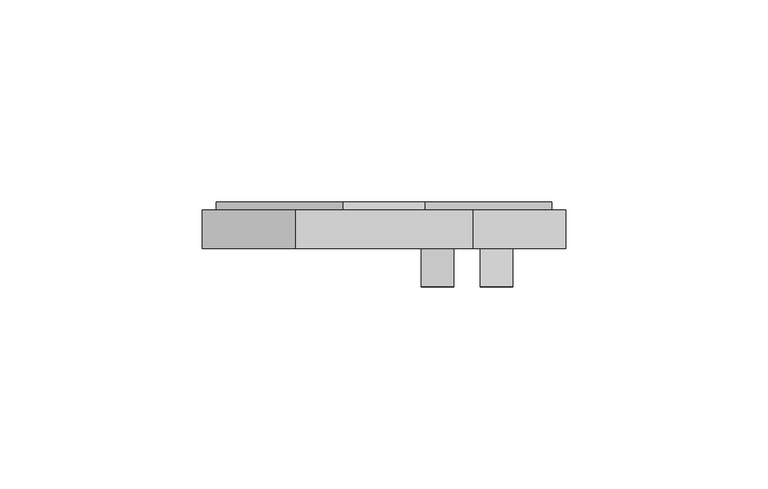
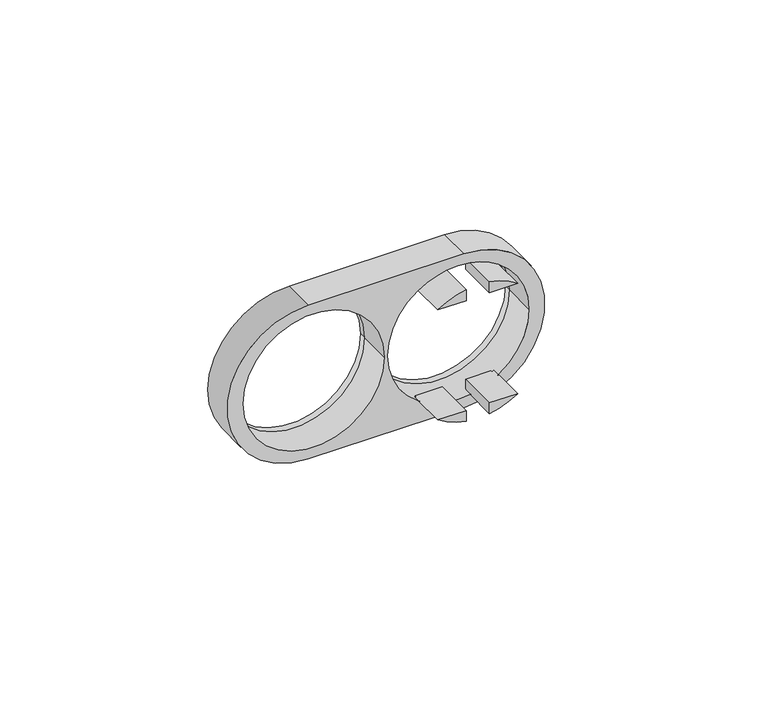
"""IFC4 building model written with IfcOpenShell, lengths in millimetres: proxy geometry, IEK_Brite_Розетка_2гн : 230 В PE_РС12-3-БрА."""

from ifc_helpers import new_model, si_unit, frame, origin, place, context, project, spatial, polyline, circle_curve, source, transform, mapped, element, save
from ifc_brep_helpers import plane_surface, cylinder_surface, revolved_surface, advanced_brep


def electrical_fixtures_a1f27638(model_context):
    return source(origin(), model_context, "Body", "AdvancedBrep", [
        advanced_brep(
        [(22.0, 19.5, -23.0), (-22.0, 19.5, -23.0), (-22.0, 19.5, 23.0), (22.0, 19.5, 23.0), (41.5, 19.5, 0.0), (10.2222863, 19.5, 18.3130719), (-10.2222863, 19.5, 18.3130719), (-41.5, 19.5, 0.0), (-10.2222863, 19.5, -18.3130719), (10.2222863, 19.5, -18.3130719), (22.0, 10.0, -23.0), (22.0, 10.0, 23.0), (-22.0, 10.0, 23.0), (-22.0, 10.0, -23.0), (-0.5, 10.0, 0.0), (-40.5, 10.0, 0.0), (40.5, 10.0, 0.0), (31.8194768, 10.0, -16.488464), (23.7980592, 10.0, -19.7261959), (17.2019408, 10.0, -19.7261959), (9.1805232, 10.0, -16.488464), (0.5, 10.0, 0.0), (9.1805232, 10.0, 16.488464), (17.2019408, 10.0, 19.7261959), (23.7980592, 10.0, 19.7261959), (31.8194768, 10.0, 16.488464), (40.5, 19.5, 0.0), (31.8194768, 12.2142117, 16.488464), (23.7980592, 12.2142117, 19.7261959), (17.2019408, 12.2142117, 19.7261959), (9.1805232, 12.2142117, 16.488464), (0.5, 19.5, 0.0), (9.1805232, 12.2142117, -16.488464), (17.2019408, 12.2142117, -19.7261959), (23.7980592, 12.2142117, -19.7261959), (31.8194768, 12.2142117, -16.488464), (-40.5, 19.5, 0.0), (-0.5, 19.5, 0.0), (10.2222863, 21.5, 18.3130719), (41.5, 21.5, 0.0), (10.2222863, 21.5, -18.3130719), (-10.2222863, 21.5, -18.3130719), (-41.5, 21.5, 0.0), (-10.2222863, 21.5, 18.3130719), (40.5, 21.5, 0.0), (0.5, 21.5, 0.0), (-40.5, 21.5, 0.0), (-0.5, 21.5, 0.0), (23.7980592, 12.2142117, -16.488464), (17.2019408, 12.2142117, -16.488464), (23.7980592, 12.2142117, 16.488464), (17.2019408, 12.2142117, 16.488464), (23.7980592, 0.5, -16.488464), (23.7980592, 0.5, -19.7261959), (31.8194768, 0.5, -16.488464), (17.2019408, 0.5, -16.488464), (9.1805232, 0.5, -16.488464), (17.2019408, 0.5, -19.7261959), (23.7980592, 0.5, 16.488464), (31.8194768, 0.5, 16.488464), (23.7980592, 0.5, 19.7261959), (17.2019408, 0.5, 16.488464), (17.2019408, 0.5, 19.7261959), (9.1805232, 0.5, 16.488464)],
        [
            (0, 1),
            (1, 2, circle_curve(frame((-22.0, 19.5, 0.0), z_axis=(0.0, 1.0, 0.0), x_axis=(-1.0, 0.0, 0.0)), 23.0)),
            (2, 3),
            (3, 0, circle_curve(frame((22.0, 19.5, 0.0), z_axis=(0.0, 1.0, 0.0), x_axis=(-1.0, 0.0, 0.0)), 23.0)),
            (4, 5, circle_curve(frame((20.5, 19.5, 0.0), z_axis=(0.0, -1.0, 0.0), x_axis=(-1.0, 0.0, 0.0)), 21.0)),
            (5, 6, circle_curve(frame((0.0, 19.5, 36.5273819), z_axis=(0.0, 1.0, 0.0), x_axis=(-1.0, 0.0, 0.0)), 20.8867476)),
            (6, 7, circle_curve(frame((-20.5, 19.5, 0.0), z_axis=(0.0, -1.0, 0.0), x_axis=(-1.0, 0.0, 0.0)), 21.0)),
            (7, 8, circle_curve(frame((-20.5, 19.5, 0.0), z_axis=(0.0, -1.0, 0.0), x_axis=(-1.0, 0.0, 0.0)), 21.0)),
            (8, 9, circle_curve(frame((0.0, 19.5, -36.5273819), z_axis=(0.0, 1.0, 0.0), x_axis=(-1.0, 0.0, 0.0)), 20.8867476)),
            (9, 4, circle_curve(frame((20.5, 19.5, 0.0), z_axis=(0.0, -1.0, 0.0), x_axis=(-1.0, 0.0, 0.0)), 21.0)),
            (10, 11, circle_curve(frame((22.0, 10.0, 0.0), z_axis=(0.0, -1.0, 0.0), x_axis=(-1.0, 0.0, 0.0)), 23.0)),
            (11, 12),
            (12, 13, circle_curve(frame((-22.0, 10.0, 0.0), z_axis=(0.0, -1.0, 0.0), x_axis=(-1.0, 0.0, 0.0)), 23.0)),
            (13, 10),
            (14, 15, circle_curve(frame((-20.5, 10.0, 0.0), z_axis=(0.0, 1.0, 0.0), x_axis=(-1.0, 0.0, 0.0)), 20.0)),
            (15, 14, circle_curve(frame((-20.5, 10.0, 0.0), z_axis=(0.0, 1.0, 0.0), x_axis=(-1.0, 0.0, 0.0)), 20.0)),
            (16, 17, circle_curve(frame((20.5, 10.0, 0.0), z_axis=(0.0, 1.0, 0.0), x_axis=(-1.0, 0.0, 0.0)), 20.0)),
            (17, 18, circle_curve(frame((20.5, 10.0, 0.0), z_axis=(0.0, 1.0, 0.0), x_axis=(0.0, 0.0, -1.0)), 20.0)),
            (18, 19, circle_curve(frame((20.5, 10.0, 0.0), z_axis=(0.0, 1.0, 0.0), x_axis=(-1.0, 0.0, 0.0)), 20.0)),
            (19, 20, circle_curve(frame((20.5, 10.0, 0.0), z_axis=(0.0, 1.0, 0.0), x_axis=(0.0, 0.0, -1.0)), 20.0)),
            (20, 21, circle_curve(frame((20.5, 10.0, 0.0), z_axis=(0.0, 1.0, 0.0), x_axis=(-1.0, 0.0, 0.0)), 20.0)),
            (21, 22, circle_curve(frame((20.5, 10.0, 0.0), z_axis=(0.0, 1.0, 0.0), x_axis=(-1.0, 0.0, 0.0)), 20.0)),
            (22, 23, circle_curve(frame((20.5, 10.0, 0.0), z_axis=(0.0, 1.0, 0.0), x_axis=(0.0, 0.0, -1.0)), 20.0)),
            (23, 24, circle_curve(frame((20.5, 10.0, 0.0), z_axis=(0.0, 1.0, 0.0), x_axis=(-1.0, 0.0, 0.0)), 20.0)),
            (24, 25, circle_curve(frame((20.5, 10.0, 0.0), z_axis=(0.0, 1.0, 0.0), x_axis=(0.0, 0.0, -1.0)), 20.0)),
            (25, 16, circle_curve(frame((20.5, 10.0, 0.0), z_axis=(0.0, 1.0, 0.0), x_axis=(-1.0, 0.0, 0.0)), 20.0)),
            (0, 10),
            (13, 1),
            (12, 2),
            (11, 3),
            (26, 16),
            (25, 27),
            (27, 28, circle_curve(frame((20.5, 12.2142117, 0.0), z_axis=(0.0, -1.0, 0.0), x_axis=(-1.0, 0.0, 0.0)), 20.0)),
            (28, 24),
            (23, 29),
            (29, 30, circle_curve(frame((20.5, 12.2142117, 0.0), z_axis=(0.0, -1.0, 0.0), x_axis=(-1.0, 0.0, 0.0)), 20.0)),
            (30, 22),
            (21, 31),
            (31, 26, circle_curve(frame((20.5, 19.5, 0.0), z_axis=(0.0, 1.0, 0.0), x_axis=(-1.0, 0.0, 0.0)), 20.0)),
            (26, 31, circle_curve(frame((20.5, 19.5, 0.0), z_axis=(0.0, 1.0, 0.0), x_axis=(-1.0, 0.0, 0.0)), 20.0)),
            (20, 32),
            (32, 33, circle_curve(frame((20.5, 12.2142117, 0.0), z_axis=(0.0, -1.0, 0.0), x_axis=(-1.0, 0.0, 0.0)), 20.0)),
            (33, 19),
            (18, 34),
            (34, 35, circle_curve(frame((20.5, 12.2142117, 0.0), z_axis=(0.0, -1.0, 0.0), x_axis=(-1.0, 0.0, 0.0)), 20.0)),
            (35, 17),
            (15, 36),
            (36, 37, circle_curve(frame((-20.5, 19.5, 0.0), z_axis=(0.0, 1.0, 0.0), x_axis=(-1.0, 0.0, 0.0)), 20.0)),
            (37, 14),
            (37, 36, circle_curve(frame((-20.5, 19.5, 0.0), z_axis=(0.0, 1.0, 0.0), x_axis=(-1.0, 0.0, 0.0)), 20.0)),
            (38, 39, circle_curve(frame((20.5, 21.5, 0.0), z_axis=(0.0, 1.0, 0.0), x_axis=(-1.0, 0.0, 0.0)), 21.0)),
            (39, 40, circle_curve(frame((20.5, 21.5, 0.0), z_axis=(0.0, 1.0, 0.0), x_axis=(-1.0, 0.0, 0.0)), 21.0)),
            (40, 41, circle_curve(frame((0.0, 21.5, -36.5273819), z_axis=(0.0, -1.0, 0.0), x_axis=(-1.0, 0.0, 0.0)), 20.8867476)),
            (41, 42, circle_curve(frame((-20.5, 21.5, 0.0), z_axis=(0.0, 1.0, 0.0), x_axis=(-1.0, 0.0, 0.0)), 21.0)),
            (42, 43, circle_curve(frame((-20.5, 21.5, 0.0), z_axis=(0.0, 1.0, 0.0), x_axis=(-1.0, 0.0, 0.0)), 21.0)),
            (43, 38, circle_curve(frame((0.0, 21.5, 36.5273819), z_axis=(0.0, -1.0, 0.0), x_axis=(-1.0, 0.0, 0.0)), 20.8867476)),
            (44, 45, circle_curve(frame((20.5, 21.5, 0.0), z_axis=(0.0, -1.0, 0.0), x_axis=(-1.0, 0.0, 0.0)), 20.0)),
            (45, 44, circle_curve(frame((20.5, 21.5, 0.0), z_axis=(0.0, -1.0, 0.0), x_axis=(-1.0, 0.0, 0.0)), 20.0)),
            (46, 47, circle_curve(frame((-20.5, 21.5, 0.0), z_axis=(0.0, -1.0, 0.0), x_axis=(-1.0, 0.0, 0.0)), 20.0)),
            (47, 46, circle_curve(frame((-20.5, 21.5, 0.0), z_axis=(0.0, -1.0, 0.0), x_axis=(-1.0, 0.0, 0.0)), 20.0)),
            (44, 26),
            (31, 45),
            (46, 36),
            (37, 47),
            (38, 5),
            (4, 39),
            (9, 40),
            (8, 41),
            (7, 42),
            (6, 43),
            (48, 35),
            (34, 48),
            (49, 33),
            (32, 49),
            (50, 28),
            (27, 50),
            (51, 30),
            (29, 51),
            (52, 53),
            (53, 54, circle_curve(frame((20.5, 0.5, 0.0), z_axis=(0.0, -1.0, 0.0), x_axis=(0.0, 0.0, -1.0)), 20.0)),
            (54, 52),
            (55, 56),
            (56, 57, circle_curve(frame((20.5, 0.5, 0.0), z_axis=(0.0, -1.0, 0.0), x_axis=(0.0, 0.0, -1.0)), 20.0)),
            (57, 55),
            (58, 59),
            (59, 60, circle_curve(frame((20.5, 0.5, 0.0), z_axis=(0.0, -1.0, 0.0), x_axis=(0.0, 0.0, -1.0)), 20.0)),
            (60, 58),
            (61, 62),
            (62, 63, circle_curve(frame((20.5, 0.5, 0.0), z_axis=(0.0, -1.0, 0.0), x_axis=(0.0, 0.0, -1.0)), 20.0)),
            (63, 61),
            (18, 53),
            (52, 48),
            (17, 54),
            (20, 56),
            (55, 49),
            (19, 57),
            (25, 59),
            (58, 50),
            (24, 60),
            (23, 62),
            (61, 51),
            (22, 63),
        ],
        [
            plane_surface(frame((22.0, 19.5, -23.0), z_axis=(0.0, 1.0, 0.0), x_axis=(-1.0, 0.0, 0.0))),
            plane_surface(frame((22.0, 10.0, -23.0), z_axis=(0.0, -1.0, 0.0), x_axis=(1.0, 0.0, 0.0))),
            plane_surface(frame((22.0, 19.5, -23.0), z_axis=(0.0, 0.0, -1.0), x_axis=(0.0, -1.0, 0.0))),
            cylinder_surface(frame((-22.0, 10.0, 0.0), z_axis=(0.0, 1.0, 0.0), x_axis=(-1.0, 0.0, 0.0)), 23.0),
            plane_surface(frame((-22.0, 19.5, 23.0), z_axis=(0.0, 0.0, 1.0), x_axis=(0.0, -1.0, 0.0))),
            cylinder_surface(frame((22.0, 10.0, 0.0), z_axis=(0.0, 1.0, 0.0), x_axis=(-1.0, 0.0, 0.0)), 23.0),
            revolved_surface(polyline([(0.5, 10.0, 0.0), (0.5, 19.5, 0.0)]), (20.5, 10.0, 0.0), (0.0, -1.0, 0.0)),
            revolved_surface(polyline([(-40.5, 10.0, 0.0), (-40.5, 19.5, 0.0)]), (-20.5, 10.0, 0.0), (0.0, -1.0, 0.0)),
            plane_surface(frame((0.5, 21.5, 0.0), z_axis=(0.0, 1.0, 0.0), x_axis=(0.0, 0.0, -1.0))),
            revolved_surface(polyline([(0.5, 19.5, 0.0), (0.5, 21.5, 0.0)]), (20.5, 19.5, 0.0), (0.0, -1.0, 0.0)),
            revolved_surface(polyline([(-40.5, 19.5, 0.0), (-40.5, 21.5, 0.0)]), (-20.5, 19.5, 0.0), (0.0, -1.0, 0.0)),
            cylinder_surface(frame((20.5, 19.5, 0.0), z_axis=(0.0, 1.0, 0.0), x_axis=(-1.0, 0.0, 0.0)), 21.0),
            revolved_surface(polyline([(-20.8867476, 19.5, -36.5273819), (-20.8867476, 21.5, -36.5273819)]), (0.0, 19.5, -36.5273819), (0.0, -1.0, 0.0)),
            cylinder_surface(frame((-20.5, 19.5, 0.0), z_axis=(0.0, 1.0, 0.0), x_axis=(-1.0, 0.0, 0.0)), 21.0),
            revolved_surface(polyline([(-20.8867476, 19.5, 36.5273819), (-20.8867476, 21.5, 36.5273819)]), (0.0, 19.5, 36.5273819), (0.0, -1.0, 0.0)),
            plane_surface(frame((23.7980592, 12.2142117, -16.488464), z_axis=(0.0, 1.0, 0.0), x_axis=(0.0, 0.0, 1.0))),
            plane_surface(frame((23.7980592, 0.5, -16.488464), z_axis=(0.0, -1.0, 0.0), x_axis=(0.0, 0.0, -1.0))),
            plane_surface(frame((23.7980592, 0.5, -16.488464), z_axis=(-1.0, 0.0, 0.0), x_axis=(0.0, 1.0, 0.0))),
            cylinder_surface(frame((20.5, 12.2142117, 0.0), z_axis=(0.0, -1.0, 0.0), x_axis=(0.0, 0.0, -1.0)), 20.0),
            plane_surface(frame((31.8194768, 0.5, -16.488464), z_axis=(0.0, 0.0, 1.0), x_axis=(0.0, 1.0, 0.0))),
            plane_surface(frame((17.2019408, 0.5, -16.488464), z_axis=(0.0, 0.0, 1.0), x_axis=(0.0, 1.0, 0.0))),
            cylinder_surface(frame((20.5, -2.0, 0.0), z_axis=(0.0, -1.0, 0.0), x_axis=(0.0, 0.0, -1.0)), 20.0),
            plane_surface(frame((17.2019408, 0.5, -19.7261959), z_axis=(1.0, 0.0, 0.0), x_axis=(0.0, 1.0, 0.0))),
            plane_surface(frame((23.7980592, 0.5, 16.488464), z_axis=(0.0, 0.0, -1.0), x_axis=(0.0, 1.0, 0.0))),
            plane_surface(frame((23.7980592, 0.5, 19.7261959), z_axis=(-1.0, 0.0, 0.0), x_axis=(0.0, 1.0, 0.0))),
            plane_surface(frame((17.2019408, 0.5, 16.488464), z_axis=(1.0, 0.0, 0.0), x_axis=(0.0, 1.0, 0.0))),
            plane_surface(frame((9.1805232, 0.5, 16.488464), z_axis=(0.0, 0.0, -1.0), x_axis=(0.0, 1.0, 0.0))),
        ],
        [
            (0, [[1, 2, 3, 4], [5, 6, 7, 8, 9, 10]]),
            (1, [[11, 12, 13, 14], [15, 16], [17, 18, 19, 20, 21, 22, 23, 24, 25, 26]]),
            (2, [[-1, 27, -14, 28]]),
            (3, [[-2, -28, -13, 29]]),
            (4, [[-3, -29, -12, 30]]),
            (5, [[-4, -30, -11, -27]]),
            (6, [[31, -26, 32, 33, 34, -24, 35, 36, 37, -22, 38, 39]]),
            (6, [[-31, 40, -38, -21, 41, 42, 43, -19, 44, 45, 46, -17]]),
            (7, [[-16, 47, 48, 49]]),
            (7, [[-15, -49, 50, -47]]),
            (8, [[51, 52, 53, 54, 55, 56], [57, 58], [59, 60]]),
            (9, [[-57, 61, -39, 62]]),
            (9, [[-58, -62, -40, -61]]),
            (10, [[-59, 63, -50, 64]]),
            (10, [[-60, -64, -48, -63]]),
            (11, [[-51, 65, -5, 66]]),
            (11, [[-52, -66, -10, 67]]),
            (12, [[-53, -67, -9, 68]]),
            (13, [[-54, -68, -8, 69]]),
            (13, [[-55, -69, -7, 70]]),
            (14, [[-56, -70, -6, -65]]),
            (15, [[71, -45, 72]]),
            (15, [[73, -42, 74]]),
            (15, [[75, -33, 76]]),
            (15, [[77, -36, 78]]),
            (16, [[79, 80, 81]]),
            (16, [[82, 83, 84]]),
            (16, [[85, 86, 87]]),
            (16, [[88, 89, 90]]),
            (17, [[-72, -44, 91, -79, 92]]),
            (18, [[-80, -91, -18, 93]]),
            (19, [[-71, -92, -81, -93, -46]]),
            (20, [[-74, -41, 94, -82, 95]]),
            (21, [[-83, -94, -20, 96]]),
            (22, [[-73, -95, -84, -96, -43]]),
            (23, [[-76, -32, 97, -85, 98]]),
            (21, [[-86, -97, -25, 99]]),
            (24, [[-75, -98, -87, -99, -34]]),
            (25, [[-78, -35, 100, -88, 101]]),
            (21, [[-89, -100, -23, 102]]),
            (26, [[-77, -101, -90, -102, -37]]),
        ],
    ),
    ])


if __name__ == "__main__":
    model = new_model("IFC4")
    model_context = context("Model", 3, world=origin())
    ifc_project = project(units=[si_unit("LENGTHUNIT", "METRE", prefix="MILLI")], contexts=[model_context])
    site = spatial("IfcSite", under=ifc_project)
    building = spatial("IfcBuilding", under=site)
    placement = place(None, origin())
    electrical_fixtures_shape = electrical_fixtures_a1f27638(model_context)
    element("IfcBuildingElementProxy", 1, Name="IEK_Brite_Розетка_2гн : 230 В PE_РС12-3-БрА", ObjectType="IEK_Brite_Розетка_2гн : 230 В PE_РС12-3-БрА", at=placement, inside=building, context=model_context, shape_type="MappedRepresentation", body=[
        mapped(electrical_fixtures_shape, transform((0.0, 0.0, 0.0), x_axis=(1.0, 0.0, 0.0), y_axis=(0.0, 1.0, 0.0), z_axis=(0.0, 0.0, 1.0))),
    ])
    save(model, "model.ifc")
